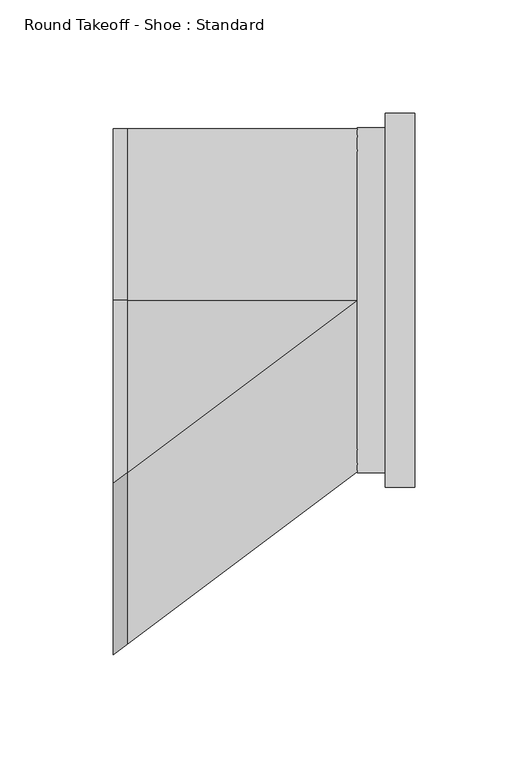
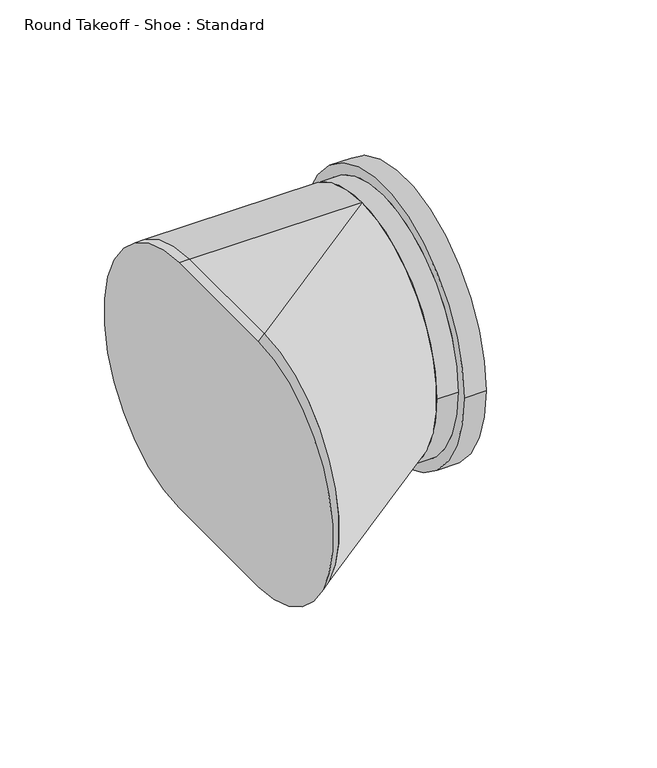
"""IFC4 building model written with IfcOpenShell, lengths in millimetres: duct fitting geometry, Round Takeoff - Shoe : Standard."""

from ifc_helpers import new_model, si_unit, point, frame, origin, place, context, project, spatial, circle_curve, trimmed, source, transform, mapped, element, save
from ifc_brep_helpers import plane_surface, cylinder_surface, extruded_surface, advanced_brep


def round_takeoff_shoe_standard_4f783c44(model_context):
    return source(origin(), model_context, "Body", "AdvancedBrep", [
        advanced_brep(
        [(127.0, -82.55, 0.0), (127.0, 82.55, 0.0), (101.6, -76.2, 0.0), (101.6, 76.2, 0.0), (114.0743747, 76.2, 0.0), (114.0743747, -76.2, 0.0), (114.0743747, -82.55, 0.0), (114.0743747, 82.55, 0.0)],
        [
            (0, 1, circle_curve(frame((127.0, 0.0, 0.0), z_axis=(1.0, 0.0, 0.0), x_axis=(0.0, 1.0, 0.0)), 82.55)),
            (1, 0, circle_curve(frame((127.0, 0.0, 0.0), z_axis=(1.0, 0.0, 0.0), x_axis=(0.0, 1.0, 0.0)), 82.55)),
            (2, 3, circle_curve(frame((101.6, 0.0, 0.0), z_axis=(-1.0, 0.0, 0.0), x_axis=(0.0, 1.0, 0.0)), 76.2)),
            (3, 2, circle_curve(frame((101.6, 0.0, 0.0), z_axis=(-1.0, 0.0, 0.0), x_axis=(0.0, 1.0, 0.0)), 76.2)),
            (3, 4),
            (4, 5, circle_curve(frame((114.0743747, 0.0, 0.0), z_axis=(-1.0, 0.0, 0.0), x_axis=(0.0, 1.0, 0.0)), 76.2)),
            (5, 2),
            (5, 4, circle_curve(frame((114.0743747, 0.0, 0.0), z_axis=(-1.0, 0.0, 0.0), x_axis=(0.0, 1.0, 0.0)), 76.2)),
            (6, 7, circle_curve(frame((114.0743747, 0.0, 0.0), z_axis=(-1.0, 0.0, 0.0), x_axis=(0.0, 1.0, 0.0)), 82.55)),
            (7, 6, circle_curve(frame((114.0743747, 0.0, 0.0), z_axis=(-1.0, 0.0, 0.0), x_axis=(0.0, 1.0, 0.0)), 82.55)),
            (0, 6),
            (7, 1),
        ],
        [
            plane_surface(frame((127.0, 76.2, 0.0), z_axis=(1.0, 0.0, 0.0), x_axis=(0.0, 0.0, 1.0))),
            plane_surface(frame((101.6, 76.2, 0.0), z_axis=(-1.0, 0.0, 0.0), x_axis=(0.0, 0.0, -1.0))),
            cylinder_surface(frame((101.6, 0.0, 0.0), z_axis=(1.0, 0.0, 0.0), x_axis=(0.0, 1.0, 0.0)), 76.2),
            plane_surface(frame((114.0743747, 82.55, 0.0), z_axis=(-1.0, 0.0, 0.0), x_axis=(0.0, 0.0, -1.0))),
            cylinder_surface(frame((114.0743747, 0.0, 0.0), z_axis=(1.0, 0.0, 0.0), x_axis=(0.0, 1.0, 0.0)), 82.55),
        ],
        [
            (0, [[1, 2]]),
            (1, [[3, 4]]),
            (2, [[-4, 5, 6, 7]]),
            (2, [[-3, -7, 8, -5]]),
            (3, [[9, 10], [-6, -8]]),
            (4, [[-1, 11, -10, 12]]),
            (4, [[-2, -12, -9, -11]]),
        ],
    ),
        advanced_brep(
        [(-6.096, 0.0, -76.2), (-6.096, -80.772, -76.2), (-6.096, -80.772, 76.2), (-6.096, 0.0, 76.2), (0.0, 0.0, -76.2), (0.0, 0.0, 76.2), (0.0, -76.2, 76.2), (0.0, -76.2, -76.2)],
        [
            (0, 1),
            (1, 2, circle_curve(frame((-6.096, -80.772, 0.0), z_axis=(-1.0, 0.0, 0.0), x_axis=(0.0, 1.0, 0.0)), 76.2)),
            (2, 3),
            (3, 0, circle_curve(frame((-6.096, 0.0, 0.0), z_axis=(-1.0, 0.0, 0.0), x_axis=(0.0, 1.0, 0.0)), 76.2)),
            (4, 5, circle_curve(frame((0.0, 0.0, 0.0), z_axis=(1.0, 0.0, 0.0), x_axis=(0.0, 1.0, 0.0)), 76.2)),
            (5, 6),
            (6, 7, circle_curve(frame((0.0, -76.2, 0.0), z_axis=(1.0, 0.0, 0.0), x_axis=(0.0, 1.0, 0.0)), 76.2)),
            (7, 4),
            (7, 1),
            (0, 4),
            (6, 2),
            (5, 3),
        ],
        [
            plane_surface(frame((-6.096, -40.386, 0.0), z_axis=(-1.0, 0.0, 0.0), x_axis=(0.0, 1.0, 0.0))),
            plane_surface(frame((0.0, -38.1, 0.0), z_axis=(1.0, 0.0, 0.0), x_axis=(0.0, 1.0, 0.0))),
            plane_surface(frame((0.0, -38.1, -76.2), z_axis=(0.0, 0.0, -1.0), x_axis=(0.0, -1.0, 0.0))),
            extruded_surface(trimmed(circle_curve(frame((0.0, -76.2, 0.0), z_axis=(-1.0, 0.0, 0.0), x_axis=(0.0, 1.0, 0.0)), 76.2), [point((0.0, -76.2, -76.2))], [point((0.0, -76.2, 76.2))], True, "CARTESIAN"), (-6.096, -4.572000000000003, 0.0), 7.620000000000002),
            plane_surface(frame((0.0, -38.1, 76.2), z_axis=(0.0, 0.0, 1.0), x_axis=(0.0, 1.0, 0.0))),
            cylinder_surface(frame((0.0, 0.0, 0.0), z_axis=(-1.0, 0.0, 0.0), x_axis=(0.0, 1.0, 0.0)), 76.2),
        ],
        [
            (0, [[1, 2, 3, 4]]),
            (1, [[5, 6, 7, 8]]),
            (2, [[-8, 9, -1, 10]]),
            (3, [[-7, 11, -2, -9]]),
            (4, [[-6, 12, -3, -11]]),
            (5, [[-5, -10, -4, -12]]),
        ],
    ),
        advanced_brep(
        [(101.6, 0.0, -76.2), (101.6, 0.0, 76.2), (0.0, 0.0, -76.2), (0.0, -76.2, -76.2), (0.0, -76.2, 76.2), (0.0, 0.0, 76.2)],
        [
            (0, 1, circle_curve(frame((101.6, 0.0, 0.0), z_axis=(1.0, 0.0, 0.0), x_axis=(0.0, 1.0, 0.0)), 76.2)),
            (1, 0, circle_curve(frame((101.6, 0.0, 0.0), z_axis=(1.0, 0.0, 0.0), x_axis=(0.0, 1.0, 0.0)), 76.2)),
            (2, 3),
            (3, 4, circle_curve(frame((0.0, -76.2, 0.0), z_axis=(-1.0, 0.0, 0.0), x_axis=(0.0, 1.0, 0.0)), 76.2)),
            (4, 5),
            (5, 2, circle_curve(frame((0.0, 0.0, 0.0), z_axis=(-1.0, 0.0, 0.0), x_axis=(0.0, 1.0, 0.0)), 76.2)),
            (5, 1),
            (0, 2),
            (4, 1),
            (3, 0),
        ],
        [
            plane_surface(frame((101.6, 0.0, 0.0), z_axis=(1.0, 0.0, 0.0), x_axis=(0.0, 1.0, 0.0))),
            plane_surface(frame((0.0, -38.1, 0.0), z_axis=(-1.0, 0.0, 0.0), x_axis=(0.0, 1.0, 0.0))),
            cylinder_surface(frame((0.0, 0.0, 0.0), z_axis=(1.0, 0.0, 0.0), x_axis=(0.0, 1.0, 0.0)), 76.2),
            plane_surface(frame((0.0, -38.1, 76.2), z_axis=(0.0, 0.0, 1.0), x_axis=(0.0, -1.0, 0.0))),
            extruded_surface(trimmed(circle_curve(frame((0.0, -76.2, 0.0), z_axis=(1.0, 0.0, 0.0), x_axis=(0.0, 1.0, 0.0)), 76.2), [point((0.0, -76.2, 76.2))], [point((0.0, -76.2, -76.2))], True, "CARTESIAN"), (101.6, 76.2, 0.0), 127.0),
            plane_surface(frame((0.0, -38.1, -76.2), z_axis=(0.0, 0.0, -1.0), x_axis=(0.0, 1.0, 0.0))),
        ],
        [
            (0, [[1, 2]]),
            (1, [[3, 4, 5, 6]]),
            (2, [[-6, 7, -1, 8]]),
            (3, [[-5, 9, -7]]),
            (4, [[-4, 10, -2, -9]]),
            (5, [[-3, -8, -10]]),
        ],
    ),
    ])


if __name__ == "__main__":
    model = new_model("IFC4")
    model_context = context("Model", 3, world=origin())
    ifc_project = project(units=[si_unit("LENGTHUNIT", "METRE", prefix="MILLI")], contexts=[model_context])
    site = spatial("IfcSite", under=ifc_project)
    building = spatial("IfcBuilding", under=site)
    placement = place(None, origin())
    round_takeoff_shoe_standard_shape = round_takeoff_shoe_standard_4f783c44(model_context)
    element("IfcDuctFitting", 1, ObjectType="Round Takeoff - Shoe : Standard", at=placement, inside=building, context=model_context, shape_type="MappedRepresentation", body=[
        mapped(round_takeoff_shoe_standard_shape, transform((0.0, 0.0, 0.0), x_axis=(1.0, 0.0, 0.0), y_axis=(0.0, 1.0, 0.0), z_axis=(0.0, 0.0, 1.0))),
    ])
    save(model, "model.ifc")
